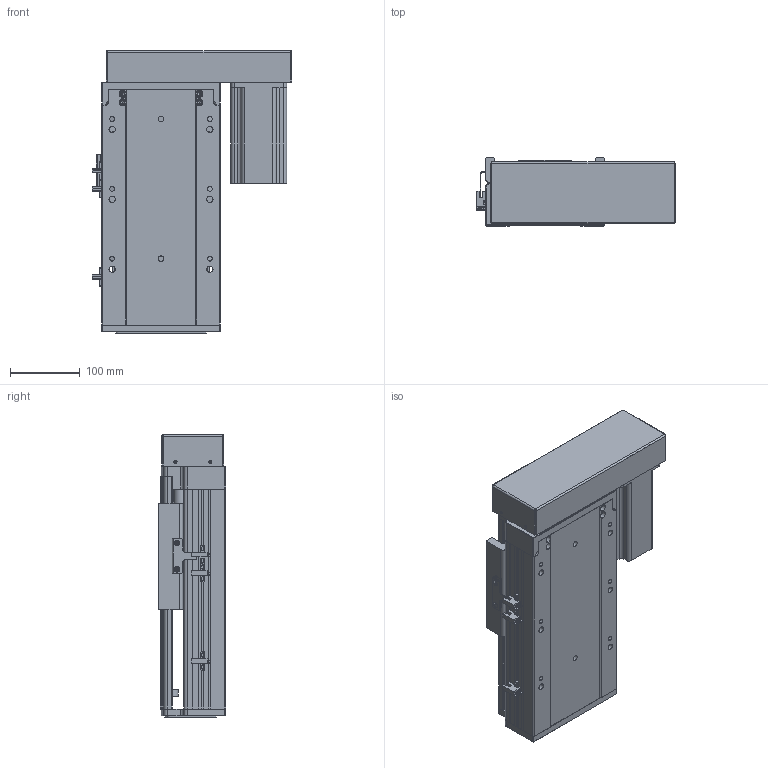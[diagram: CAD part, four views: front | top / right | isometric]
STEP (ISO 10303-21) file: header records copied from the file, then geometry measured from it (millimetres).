
FILE_DESCRIPTION (( 'STEP AP203' ), '1' );
FILE_NAME ('RY170-L2510-300-RK.SLDASM_100.step', '2021-03-12T09:18:28', ( '盈信电脑' ), ( '东莞市道滘镇水果街19号' ), 'SwSTEP 2.0', 'SolidWorks 2012', '' );
FILE_SCHEMA (( 'CONFIG_CONTROL_DESIGN' ));
Length unit declared in the file: millimetre
Products named in the file (14): RY170外置感应片(200共用）; RY170-L2510-300-RK.SLDASM_100; 覜茼ん672; RY170-左右折电机安装板750W; RY170酘衵殏萇儂欶750W; RY170-酘衵殏750W萇儂傷; 怢湛750W萇儂ㄗ80遺ㄘ; 滅袉蝶18-20; RY170綴裔啣; RY170转折电机端支撑座(7004); 滅袉蝶18-10; RY170-300倰第菁釱-RK_100; RY170-300倰第裔啣-RK_100; 改造-RY170铝滑块25丝杆螺母
Assembly tree (15 placements, depth 3):
  RY170-L2510-300-RK.SLDASM_100
    RY170-300倰第菁釱-RK_100
    改造-RY170铝滑块25丝杆螺母
    RY170-300倰第裔啣-RK_100
    RY170綴裔啣
    滅袉蝶18-20
    滅袉蝶18-10
    RY170转折电机端支撑座(7004)
    RY170-酘衵殏750W萇儂傷
      RY170-左右折电机安装板750W
      RY170酘衵殏萇儂欶750W
      怢湛750W萇儂ㄗ80遺ㄘ
    覜茼ん672  x3
    RY170外置感应片(200共用）
Bounding box: 286.2 x 97 x 405 mm (x, y, z)
Volume: 3463105.5 mm3; surface area: 923637.3 mm2
Topology: 14 solids, 14 shells, 1959 faces, 5526 edges, 3574 vertices
Faces by surface type: plane 1078, cylinder 736, cone 126, bspline 19
Entity records: 61619 total; most frequent: CARTESIAN_POINT 13893, ORIENTED_EDGE 9892, DIRECTION 9294, EDGE_CURVE 4946, VERTEX_POINT 3254, LINE 3228, VECTOR 3228, AXIS2_PLACEMENT_3D 3033
